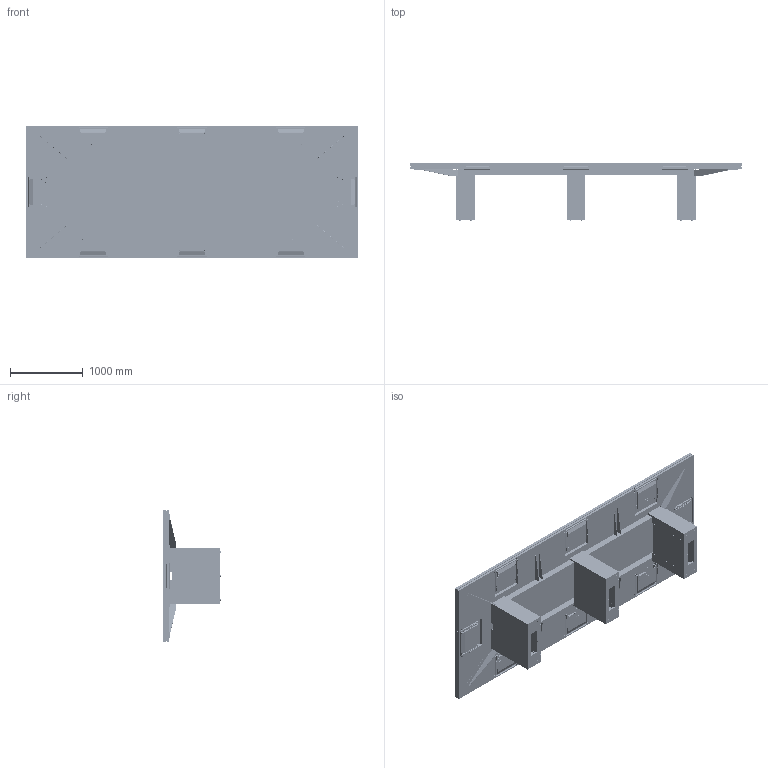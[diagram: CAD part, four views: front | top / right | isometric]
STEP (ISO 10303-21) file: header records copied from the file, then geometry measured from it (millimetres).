
FILE_DESCRIPTION(/* description */ ('','CAx-IF Rec.Pracs.---Representation and Presentation of Product Manufacturing Information (PMI)---4.0---2014-10-13'),/* implementation_level */ '2;1');
FILE_NAME(/* name */ 'TABLE_FOUNDATION 7.stp',/* time_stamp */ '2024-12-07T16:54:56-05:00',/* author */ ('mbowman'),/* organization */ (''),/* preprocessor_version */ 'ST-DEVELOPER v19.2',/* originating_system */ 'Autodesk Inventor 2023',/* authorisation */ '');
FILE_SCHEMA (('AP242_MANAGED_MODEL_BASED_3D_ENGINEERING_MIM_LF { 1 0 10303 442 1 1 4 }'));
Products named in the file (63): FOUNDATION^TABLE 7_POWER DRAWERS-SOLID ASSEMBLY; FOUNDATION^TABLE 7_POWER DRAWERS-TOPS SOLID; FOUNDATION^16-SHORT-ASHLEY210-ASSEMBLY; R755-305-RIGHT; R755-305-LEFT; FOUNDATION^16-SHORT-ASHLEY210-ASSEMBLY_1; R755-305-RIGHT_1; R755-305-LEFT_1; FOUNDATION^16-SHORT-ASHLEY210-ASSEMBLY_2; R755-305-RIGHT_2; R755-305-LEFT_2; FOUNDATION^16-SHORT-ASHLEY210-ASSEMBLY_3; VGA 35 HDMI; BLANK; 1AA12-009 MA1; VGA; 3AA06-001; SDH15S_Without Mounting Flange and Solder Cups; DGB9F-MA1_GENDER CHANGER; 3AA05-002; 3AB14-020___; 1AM07-031___; 1AJ01-018___; 1AJ06-031___; 1AH01-003___; ASHLEY DUO-2PWR 2 USB; 16-P&D TRAY 04 ASSY-SHORT-ASHLEY210-01.31.24; 16-P&D TRAY 04A-SHORT-ASHLEY210-01.31.24; 16-P&D TRAY 04B-SHORT-ASHLEY210-01.31.24; 16-MTG RAIL 01-ASHLEY210-01.31.24; FOUNDATION^16-ASHLEY 210-POWER DRAWER-WOOD PARTS; R755-305-RIGHT_3; R755-305-RAIL; R755-305-SLIDE; R755-305-LEFT_3; R755-305-RAIL_LEFT; R755-305-SLIDE_LEFT; FOUNDATION^TABLE 7_10X30 PAINTED END BASE-ASSEMBLY; FOUNDATION^TABLE 7_10X30 PAINTED END BASE-BOTTOM; FOUNDATION^TABLE 7_10X30 PAINTED END BASE-BACK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
Assembly tree (139 placements, depth 5):
  FOUNDATION^TABLE 7_POWER DRAWERS-SOLID ASSEMBLY
    FOUNDATION^TABLE 7_POWER DRAWERS-TOPS SOLID
    FOUNDATION^16-SHORT-ASHLEY210-ASSEMBLY_3  x5
      VGA 35 HDMI
        BLANK
        1AA12-009 MA1
        VGA
          SDH15S_Without Mounting Flange and Solder Cups  x2
          3AA06-001  x2
          3AA05-002  x2
          DGB9F-MA1_GENDER CHANGER
        3AB14-020___
          1AM07-031___
          1AJ06-031___  x2
          1AJ01-018___
          1AH01-003___
      ASHLEY DUO-2PWR 2 USB
      16-P&D TRAY 04 ASSY-SHORT-ASHLEY210-01.31.24
        16-P&D TRAY 04A-SHORT-ASHLEY210-01.31.24
        16-P&D TRAY 04B-SHORT-ASHLEY210-01.31.24
      16-MTG RAIL 01-ASHLEY210-01.31.24
      FOUNDATION^16-ASHLEY 210-POWER DRAWER-WOOD PARTS
      R755-305-RIGHT_3
        R755-305-RAIL
        R755-305-SLIDE
      R755-305-LEFT_3
        R755-305-RAIL_LEFT
        R755-305-SLIDE_LEFT
    FOUNDATION^16-SHORT-ASHLEY210-ASSEMBLY
      VGA 35 HDMI
        BLANK
        1AA12-009 MA1
        VGA
          SDH15S_Without Mounting Flange and Solder Cups  x2
          3AA06-001  x2
          3AA05-002  x2
          DGB9F-MA1_GENDER CHANGER
        3AB14-020___
          1AM07-031___
          1AJ06-031___  x2
          1AJ01-018___
          1AH01-003___
      ASHLEY DUO-2PWR 2 USB
      16-P&D TRAY 04 ASSY-SHORT-ASHLEY210-01.31.24
        16-P&D TRAY 04A-SHORT-ASHLEY210-01.31.24
        16-P&D TRAY 04B-SHORT-ASHLEY210-01.31.24
      16-MTG RAIL 01-ASHLEY210-01.31.24  x2
      FOUNDATION^16-ASHLEY 210-POWER DRAWER-WOOD PARTS
      R755-305-RIGHT
        R755-305-RAIL
        R755-305-SLIDE
      R755-305-LEFT
        R755-305-RAIL_LEFT
        R755-305-SLIDE_LEFT
    FOUNDATION^16-SHORT-ASHLEY210-ASSEMBLY_1
      VGA 35 HDMI
        BLANK
        1AA12-009 MA1
        VGA
          SDH15S_Without Mounting Flange and Solder Cups  x2
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Bounding box: 4572 x 787.4 x 1828.8 mm (x, y, z)
Volume: 742341522 mm3; surface area: 55255047.5 mm2
Topology: 384 solids, 384 shells, 23710 faces, 61854 edges, 40170 vertices
Faces by surface type: plane 16282, cylinder 4226, bspline 1920, cone 794, torus 408, sphere 80
Full cylindrical faces by diameter (mm): 0.991 x240, 2.159 x64, 2.197 x16, 2.261 x128, 2.3 x16, 2.743 x16, 2.794 x32, 3.048 x16, 3.124 x16, 3.175 x16, 3.2 x48, 3.556 x8, 4.762 x68, 4.826 x28, 5.74 x18, 6 x8, 6.35 x416, 6.5 x8, 7.144 x16, 7.5 x8, 7.874 x16, 7.938 x18, 8 x8, 8.3 x8, 8.636 x32, 11.112 x18, 13.5 x8, 14.859 x8
Entity records: 112891 total; most frequent: CARTESIAN_POINT 30515, DIRECTION 15658, ORIENTED_EDGE 15650, EDGE_CURVE 7825, LINE 6276, VECTOR 6276, VERTEX_POINT 5118, AXIS2_PLACEMENT_3D 4691
